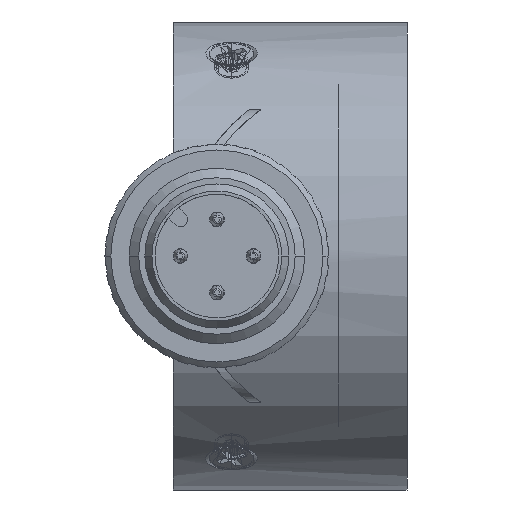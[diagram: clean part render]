
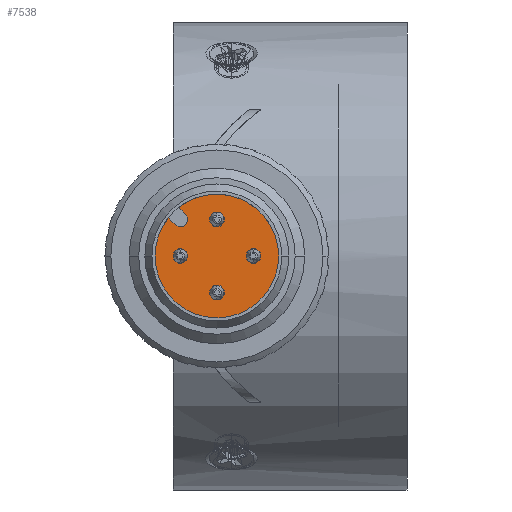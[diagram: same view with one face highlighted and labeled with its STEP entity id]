
A CAD part, front view. The second image highlights one B-rep face of the part: STEP entity #7538.
In plain terms, the highlighted planar face has unit normal (0, -1, 0).
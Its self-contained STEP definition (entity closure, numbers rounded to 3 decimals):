
#908 = EDGE_LOOP ( 'NONE', ( #24367, #32462 ) ) ;
#1121 = CARTESIAN_POINT ( 'NONE',  ( 12.11, -561.749, -3.803 ) ) ;
#1801 = FACE_BOUND ( 'NONE', #908, .T. ) ;
#2196 = AXIS2_PLACEMENT_3D ( 'NONE', #2327, #7467, #23859 ) ;
#2264 = PLANE ( 'NONE',  #28971 ) ;
#2327 = CARTESIAN_POINT ( 'NONE',  ( 13.843, -561.749, -1.311 ) ) ;
#2736 = DIRECTION ( 'NONE',  ( 0., 1., 0. ) ) ;
#3137 = VERTEX_POINT ( 'NONE', #23580 ) ;
#3250 = EDGE_CURVE ( 'NONE', #13053, #35249, #46742, .T. ) ;
#3318 = CIRCLE ( 'NONE', #32068, 0.5 ) ;
#3713 = DIRECTION ( 'NONE',  ( -1., 0., 0. ) ) ;
#4437 = DIRECTION ( 'NONE',  ( 0., 1., 0. ) ) ;
#4481 = ORIENTED_EDGE ( 'NONE', *, *, #44375, .F. ) ;
#5064 = AXIS2_PLACEMENT_3D ( 'NONE', #46125, #34986, #42807 ) ;
#5504 = EDGE_CURVE ( 'NONE', #38304, #18865, #15908, .T. ) ;
#5519 = LINE ( 'NONE', #5992, #19613 ) ;
#5694 = VERTEX_POINT ( 'NONE', #26078 ) ;
#5992 = CARTESIAN_POINT ( 'NONE',  ( 13.722, -561.749, -0.483 ) ) ;
#6463 = CARTESIAN_POINT ( 'NONE',  ( 13.015, -561.749, -1.19 ) ) ;
#6882 = LINE ( 'NONE', #31979, #8567 ) ;
#6910 = AXIS2_PLACEMENT_3D ( 'NONE', #21906, #43462, #14546 ) ;
#7206 = CIRCLE ( 'NONE', #8717, 0.5 ) ;
#7467 = DIRECTION ( 'NONE',  ( 0., -1., 0. ) ) ;
#7538 = ADVANCED_FACE ( 'NONE', ( #1801, #9825, #41551, #31595, #41783 ), #2264, .T. ) ;
#7553 = EDGE_LOOP ( 'NONE', ( #21631, #27691 ) ) ;
#7922 = EDGE_CURVE ( 'NONE', #40185, #26198, #5519, .T. ) ;
#8567 = VECTOR ( 'NONE', #46423, 1000. ) ;
#8717 = AXIS2_PLACEMENT_3D ( 'NONE', #19768, #29955, #33506 ) ;
#8877 = ORIENTED_EDGE ( 'NONE', *, *, #13401, .T. ) ;
#9454 = CIRCLE ( 'NONE', #35926, 0.5 ) ;
#9754 = CIRCLE ( 'NONE', #2196, 0.5 ) ;
#9825 = FACE_BOUND ( 'NONE', #30247, .T. ) ;
#10367 = CARTESIAN_POINT ( 'NONE',  ( 18.835, -561.749, -3.803 ) ) ;
#10922 = CIRCLE ( 'NONE', #44179, 0.5 ) ;
#10977 = CARTESIAN_POINT ( 'NONE',  ( 13.722, -561.749, -0.483 ) ) ;
#11032 = DIRECTION ( 'NONE',  ( 0., 1., 0. ) ) ;
#11682 = EDGE_CURVE ( 'NONE', #13537, #5694, #27983, .T. ) ;
#11963 = AXIS2_PLACEMENT_3D ( 'NONE', #24524, #11032, #21207 ) ;
#12478 = EDGE_CURVE ( 'NONE', #35467, #44290, #9454, .T. ) ;
#13053 = VERTEX_POINT ( 'NONE', #1121 ) ;
#13401 = EDGE_CURVE ( 'NONE', #44290, #35467, #35636, .T. ) ;
#13537 = VERTEX_POINT ( 'NONE', #23984 ) ;
#13994 = ORIENTED_EDGE ( 'NONE', *, *, #20004, .F. ) ;
#14546 = DIRECTION ( 'NONE',  ( 0., 0., 1. ) ) ;
#14704 = DIRECTION ( 'NONE',  ( 0., 0., 1. ) ) ;
#15113 = EDGE_CURVE ( 'NONE', #38348, #35249, #6882, .T. ) ;
#15299 = DIRECTION ( 'NONE',  ( -1., 0., 0. ) ) ;
#15908 = CIRCLE ( 'NONE', #38589, 0.5 ) ;
#16395 = CIRCLE ( 'NONE', #5064, 0.5 ) ;
#16674 = DIRECTION ( 'NONE',  ( 0., 0., 1. ) ) ;
#17618 = ORIENTED_EDGE ( 'NONE', *, *, #41990, .T. ) ;
#17730 = EDGE_CURVE ( 'NONE', #20182, #3137, #10922, .T. ) ;
#18143 = AXIS2_PLACEMENT_3D ( 'NONE', #46664, #43587, #36709 ) ;
#18865 = VERTEX_POINT ( 'NONE', #31841 ) ;
#19613 = VECTOR ( 'NONE', #23495, 1000. ) ;
#19768 = CARTESIAN_POINT ( 'NONE',  ( 16.335, -561.749, -6.303 ) ) ;
#20004 = EDGE_CURVE ( 'NONE', #35913, #13053, #26935, .T. ) ;
#20019 = CARTESIAN_POINT ( 'NONE',  ( 18.835, -561.749, -3.803 ) ) ;
#20182 = VERTEX_POINT ( 'NONE', #36838 ) ;
#21207 = DIRECTION ( 'NONE',  ( -1., 0., 0. ) ) ;
#21218 = DIRECTION ( 'NONE',  ( 0., 1., 0. ) ) ;
#21631 = ORIENTED_EDGE ( 'NONE', *, *, #17730, .T. ) ;
#21688 = DIRECTION ( 'NONE',  ( 0., 1., 0. ) ) ;
#21906 = CARTESIAN_POINT ( 'NONE',  ( 16.335, -561.749, -1.303 ) ) ;
#22556 = CARTESIAN_POINT ( 'NONE',  ( 14.196, -561.749, -0.957 ) ) ;
#23495 = DIRECTION ( 'NONE',  ( 0.707, 0., -0.707 ) ) ;
#23580 = CARTESIAN_POINT ( 'NONE',  ( 18.835, -561.749, -4.303 ) ) ;
#23859 = DIRECTION ( 'NONE',  ( -1., 0., 0. ) ) ;
#23984 = CARTESIAN_POINT ( 'NONE',  ( 13.835, -561.749, -4.303 ) ) ;
#24367 = ORIENTED_EDGE ( 'NONE', *, *, #40035, .T. ) ;
#24524 = CARTESIAN_POINT ( 'NONE',  ( 16.335, -561.749, -3.803 ) ) ;
#24679 = CARTESIAN_POINT ( 'NONE',  ( 16.335, -561.749, -6.303 ) ) ;
#24808 = DIRECTION ( 'NONE',  ( 0., 1., 0. ) ) ;
#26000 = CARTESIAN_POINT ( 'NONE',  ( 16.335, -561.749, -0.803 ) ) ;
#26078 = CARTESIAN_POINT ( 'NONE',  ( 13.835, -561.749, -3.303 ) ) ;
#26198 = VERTEX_POINT ( 'NONE', #22556 ) ;
#26495 = ORIENTED_EDGE ( 'NONE', *, *, #3250, .F. ) ;
#26935 = CIRCLE ( 'NONE', #39785, 4.225 ) ;
#27014 = CARTESIAN_POINT ( 'NONE',  ( 16.335, -561.749, -1.803 ) ) ;
#27593 = CARTESIAN_POINT ( 'NONE',  ( 11.688, -561.749, 0.844 ) ) ;
#27691 = ORIENTED_EDGE ( 'NONE', *, *, #37263, .T. ) ;
#27983 = CIRCLE ( 'NONE', #18143, 0.5 ) ;
#28641 = EDGE_LOOP ( 'NONE', ( #8877, #37544 ) ) ;
#28795 = CARTESIAN_POINT ( 'NONE',  ( 16.335, -561.749, -3.803 ) ) ;
#28971 = AXIS2_PLACEMENT_3D ( 'NONE', #27593, #42255, #30666 ) ;
#29265 = ORIENTED_EDGE ( 'NONE', *, *, #15113, .T. ) ;
#29270 = EDGE_CURVE ( 'NONE', #40185, #35913, #34730, .T. ) ;
#29293 = CARTESIAN_POINT ( 'NONE',  ( 16.335, -561.749, -3.803 ) ) ;
#29955 = DIRECTION ( 'NONE',  ( 0., 1., 0. ) ) ;
#30247 = EDGE_LOOP ( 'NONE', ( #17618, #33262 ) ) ;
#30666 = DIRECTION ( 'NONE',  ( 0., 0., -1. ) ) ;
#30945 = AXIS2_PLACEMENT_3D ( 'NONE', #29293, #4437, #15299 ) ;
#31595 = FACE_BOUND ( 'NONE', #7553, .T. ) ;
#31841 = CARTESIAN_POINT ( 'NONE',  ( 16.335, -561.749, -5.803 ) ) ;
#31979 = CARTESIAN_POINT ( 'NONE',  ( 13.489, -561.749, -1.664 ) ) ;
#32068 = AXIS2_PLACEMENT_3D ( 'NONE', #10367, #24808, #32149 ) ;
#32149 = DIRECTION ( 'NONE',  ( 0., 0., 1. ) ) ;
#32350 = DIRECTION ( 'NONE',  ( 0., 0., 1. ) ) ;
#32462 = ORIENTED_EDGE ( 'NONE', *, *, #5504, .T. ) ;
#33262 = ORIENTED_EDGE ( 'NONE', *, *, #11682, .T. ) ;
#33506 = DIRECTION ( 'NONE',  ( 0., 0., 1. ) ) ;
#34730 = CIRCLE ( 'NONE', #30945, 4.225 ) ;
#34986 = DIRECTION ( 'NONE',  ( 0., 1., 0. ) ) ;
#35249 = VERTEX_POINT ( 'NONE', #6463 ) ;
#35467 = VERTEX_POINT ( 'NONE', #27014 ) ;
#35636 = CIRCLE ( 'NONE', #6910, 0.5 ) ;
#35878 = CARTESIAN_POINT ( 'NONE',  ( 20.56, -561.749, -3.803 ) ) ;
#35913 = VERTEX_POINT ( 'NONE', #35878 ) ;
#35926 = AXIS2_PLACEMENT_3D ( 'NONE', #42772, #21218, #32350 ) ;
#36047 = DIRECTION ( 'NONE',  ( 0., 1., 0. ) ) ;
#36709 = DIRECTION ( 'NONE',  ( 0., 0., 1. ) ) ;
#36838 = CARTESIAN_POINT ( 'NONE',  ( 18.835, -561.749, -3.303 ) ) ;
#37263 = EDGE_CURVE ( 'NONE', #3137, #20182, #3318, .T. ) ;
#37544 = ORIENTED_EDGE ( 'NONE', *, *, #12478, .T. ) ;
#38304 = VERTEX_POINT ( 'NONE', #41858 ) ;
#38310 = CARTESIAN_POINT ( 'NONE',  ( 13.489, -561.749, -1.664 ) ) ;
#38348 = VERTEX_POINT ( 'NONE', #38310 ) ;
#38531 = ORIENTED_EDGE ( 'NONE', *, *, #7922, .T. ) ;
#38589 = AXIS2_PLACEMENT_3D ( 'NONE', #24679, #36047, #14704 ) ;
#39785 = AXIS2_PLACEMENT_3D ( 'NONE', #28795, #21688, #3713 ) ;
#40035 = EDGE_CURVE ( 'NONE', #18865, #38304, #7206, .T. ) ;
#40185 = VERTEX_POINT ( 'NONE', #10977 ) ;
#41551 = FACE_BOUND ( 'NONE', #28641, .T. ) ;
#41718 = EDGE_LOOP ( 'NONE', ( #38531, #4481, #29265, #26495, #13994, #41861 ) ) ;
#41783 = FACE_OUTER_BOUND ( 'NONE', #41718, .T. ) ;
#41858 = CARTESIAN_POINT ( 'NONE',  ( 16.335, -561.749, -6.803 ) ) ;
#41861 = ORIENTED_EDGE ( 'NONE', *, *, #29270, .F. ) ;
#41990 = EDGE_CURVE ( 'NONE', #5694, #13537, #16395, .T. ) ;
#42255 = DIRECTION ( 'NONE',  ( 0., -1., 0. ) ) ;
#42772 = CARTESIAN_POINT ( 'NONE',  ( 16.335, -561.749, -1.303 ) ) ;
#42807 = DIRECTION ( 'NONE',  ( 0., 0., 1. ) ) ;
#43462 = DIRECTION ( 'NONE',  ( 0., 1., 0. ) ) ;
#43587 = DIRECTION ( 'NONE',  ( 0., 1., 0. ) ) ;
#44179 = AXIS2_PLACEMENT_3D ( 'NONE', #20019, #2736, #16674 ) ;
#44290 = VERTEX_POINT ( 'NONE', #26000 ) ;
#44375 = EDGE_CURVE ( 'NONE', #38348, #26198, #9754, .T. ) ;
#46125 = CARTESIAN_POINT ( 'NONE',  ( 13.835, -561.749, -3.803 ) ) ;
#46423 = DIRECTION ( 'NONE',  ( -0.707, 0., 0.707 ) ) ;
#46664 = CARTESIAN_POINT ( 'NONE',  ( 13.835, -561.749, -3.803 ) ) ;
#46742 = CIRCLE ( 'NONE', #11963, 4.225 ) ;
